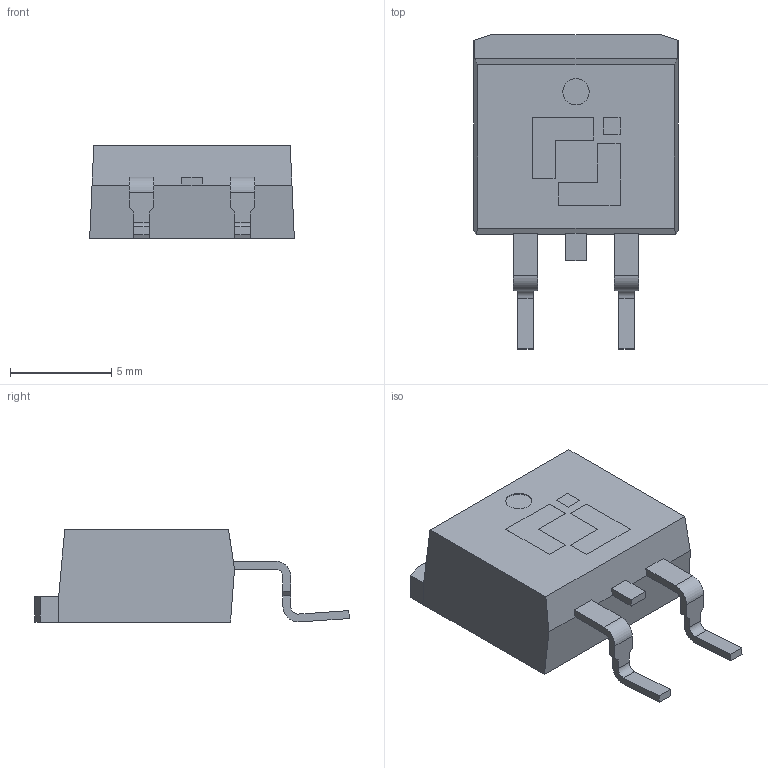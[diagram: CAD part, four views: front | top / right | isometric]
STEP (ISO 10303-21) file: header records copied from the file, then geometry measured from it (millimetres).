
FILE_DESCRIPTION(('HOOPS Exchange Step'),'2;1');
FILE_NAME('/private/var/mobile/Containers/Data/Application/B58F1CC9-4D0F-4A01-A131-9A86D81A2437/tmp/export/temp_export','2025-12-02T09:23:12+08:00',('mobile'),('Shapr3D Limited'),'HOOPS Exchange 2025.5','Shapr3D','Authorized');
FILE_SCHEMA( ('AP242_MANAGED_MODEL_BASED_3D_ENGINEERING_MIM_LF {1 0 10303 442 1 1 4}') );
Length unit declared in the file: millimetre
Products named in the file (1): root
Bounding box: 10.11 x 15.55 x 4.57 mm (x, y, z)
Volume: 404.2 mm3; surface area: 429.2 mm2
Topology: 4 solids, 4 shells, 105 faces, 273 edges, 180 vertices
Faces by surface type: plane 96, cylinder 9
Full cylindrical faces by diameter (mm): 1.3 x1
Entity records: 3263 total; most frequent: CARTESIAN_POINT 560, ORIENTED_EDGE 546, DIRECTION 505, EDGE_CURVE 273, VECTOR 255, LINE 255, VERTEX_POINT 180, AXIS2_PLACEMENT_3D 125
